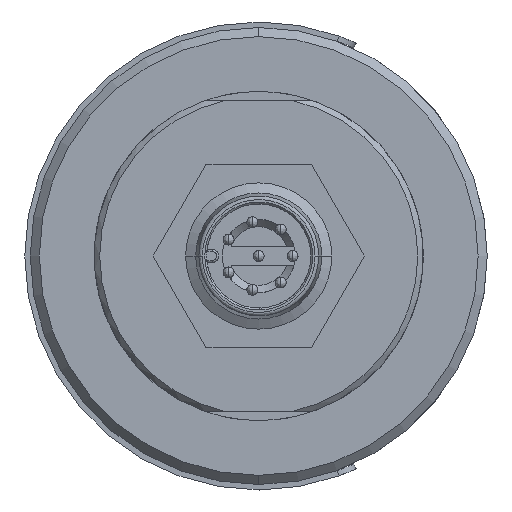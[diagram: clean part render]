
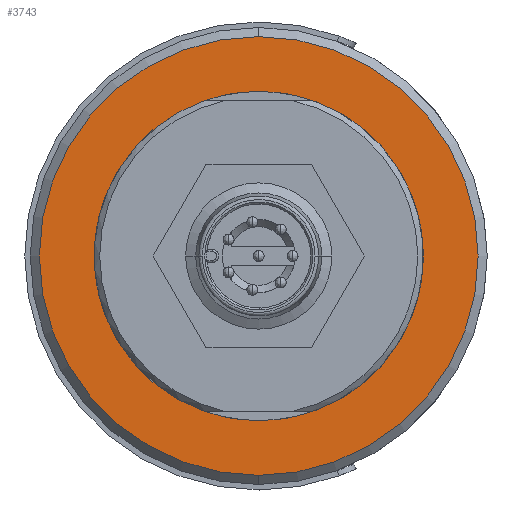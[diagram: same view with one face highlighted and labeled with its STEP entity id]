
A CAD part, left-side view. The second image highlights one B-rep face of the part: STEP entity #3743.
In plain terms, the highlighted planar face has unit normal (-1, 0, 0).
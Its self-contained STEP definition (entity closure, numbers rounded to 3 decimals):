
#85 = CARTESIAN_POINT ( 'NONE',  ( -31.9, 0., 9. ) ) ;
#188 = FACE_BOUND ( 'NONE', #5483, .T. ) ;
#334 = DIRECTION ( 'NONE',  ( 0., 0., 1. ) ) ;
#1047 = DIRECTION ( 'NONE',  ( 1., 0., 0. ) ) ;
#1070 = FACE_OUTER_BOUND ( 'NONE', #4342, .T. ) ;
#1158 = VERTEX_POINT ( 'NONE', #2189 ) ;
#1168 = DIRECTION ( 'NONE',  ( -1., 0., 0. ) ) ;
#1293 = DIRECTION ( 'NONE',  ( 0., 0., -1. ) ) ;
#1358 = DIRECTION ( 'NONE',  ( 1., 0., 0. ) ) ;
#1420 = AXIS2_PLACEMENT_3D ( 'NONE', #4574, #4705, #2008 ) ;
#1651 = PLANE ( 'NONE',  #3422 ) ;
#1682 = ORIENTED_EDGE ( 'NONE', *, *, #3275, .T. ) ;
#1702 = CARTESIAN_POINT ( 'NONE',  ( -31.9, 0., 0. ) ) ;
#1920 = CARTESIAN_POINT ( 'NONE',  ( -31.9, 0., 12. ) ) ;
#2008 = DIRECTION ( 'NONE',  ( 0., 0., 1. ) ) ;
#2189 = CARTESIAN_POINT ( 'NONE',  ( -31.9, 0., -9. ) ) ;
#2269 = AXIS2_PLACEMENT_3D ( 'NONE', #4888, #1358, #1293 ) ;
#2463 = CIRCLE ( 'NONE', #3222, 9. ) ;
#2852 = CIRCLE ( 'NONE', #1420, 12. ) ;
#3122 = EDGE_CURVE ( 'NONE', #5291, #1158, #4082, .T. ) ;
#3222 = AXIS2_PLACEMENT_3D ( 'NONE', #3655, #1047, #5073 ) ;
#3275 = EDGE_CURVE ( 'NONE', #1158, #5291, #2463, .T. ) ;
#3291 = VERTEX_POINT ( 'NONE', #1920 ) ;
#3357 = EDGE_CURVE ( 'NONE', #3291, #4251, #2852, .T. ) ;
#3422 = AXIS2_PLACEMENT_3D ( 'NONE', #5180, #3852, #4794 ) ;
#3655 = CARTESIAN_POINT ( 'NONE',  ( -31.9, 0., 0. ) ) ;
#3743 = ADVANCED_FACE ( 'NONE', ( #1070, #188 ), #1651, .T. ) ;
#3852 = DIRECTION ( 'NONE',  ( -1., 0., 0. ) ) ;
#3906 = CARTESIAN_POINT ( 'NONE',  ( -31.9, 0., -12. ) ) ;
#4082 = CIRCLE ( 'NONE', #2269, 9. ) ;
#4251 = VERTEX_POINT ( 'NONE', #3906 ) ;
#4342 = EDGE_LOOP ( 'NONE', ( #5061, #4403 ) ) ;
#4403 = ORIENTED_EDGE ( 'NONE', *, *, #3357, .T. ) ;
#4574 = CARTESIAN_POINT ( 'NONE',  ( -31.9, 0., 0. ) ) ;
#4705 = DIRECTION ( 'NONE',  ( -1., 0., 0. ) ) ;
#4794 = DIRECTION ( 'NONE',  ( 0., 0., 1. ) ) ;
#4878 = ORIENTED_EDGE ( 'NONE', *, *, #3122, .T. ) ;
#4888 = CARTESIAN_POINT ( 'NONE',  ( -31.9, 0., 0. ) ) ;
#5061 = ORIENTED_EDGE ( 'NONE', *, *, #5827, .T. ) ;
#5073 = DIRECTION ( 'NONE',  ( 0., 0., -1. ) ) ;
#5106 = AXIS2_PLACEMENT_3D ( 'NONE', #1702, #1168, #334 ) ;
#5180 = CARTESIAN_POINT ( 'NONE',  ( -31.9, 0., -9. ) ) ;
#5291 = VERTEX_POINT ( 'NONE', #85 ) ;
#5483 = EDGE_LOOP ( 'NONE', ( #1682, #4878 ) ) ;
#5688 = CIRCLE ( 'NONE', #5106, 12. ) ;
#5827 = EDGE_CURVE ( 'NONE', #4251, #3291, #5688, .T. ) ;
